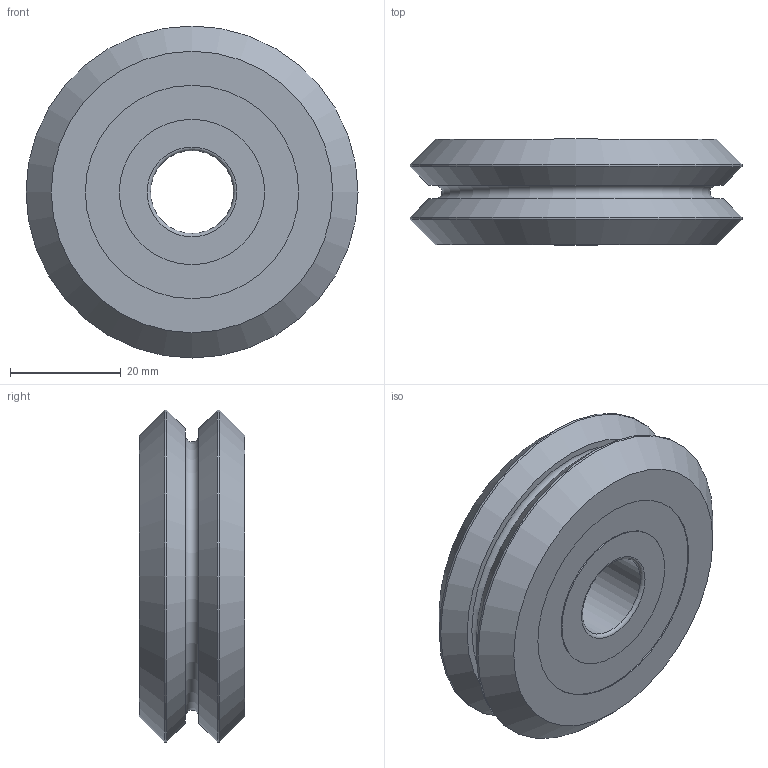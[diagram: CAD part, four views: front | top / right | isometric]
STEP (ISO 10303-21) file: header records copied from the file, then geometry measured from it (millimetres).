
FILE_DESCRIPTION(('STEP AP203'),'1');
FILE_NAME('W4X.stp','2020-09-30T01:57:14',(' '),(' '),'Spatial InterOp 3D',' ',' ');
FILE_SCHEMA(('CONFIG_CONTROL_DESIGN'));
Length unit declared in the file: millimetre
Products named in the file (1): W4X
Bounding box: 59.94 x 19.05 x 59.94 mm (x, y, z)
Volume: 42098.1 mm3; surface area: 9715.8 mm2
Topology: 1 solids, 1 shells, 22 faces, 36 edges, 22 vertices
Faces by surface type: plane 8, cylinder 7, cone 4, torus 3
Full cylindrical faces by diameter (mm): 15 x1, 26.238 x2, 38.519 x2, 59.94 x2
Entity records: 510 total; most frequent: DIRECTION 90, CARTESIAN_POINT 67, AXIS2_PLACEMENT_3D 45, EDGE_LOOP 44, ORIENTED_EDGE 44, FACE_OUTER_BOUND 32, ADVANCED_FACE 22, EDGE_CURVE 22
